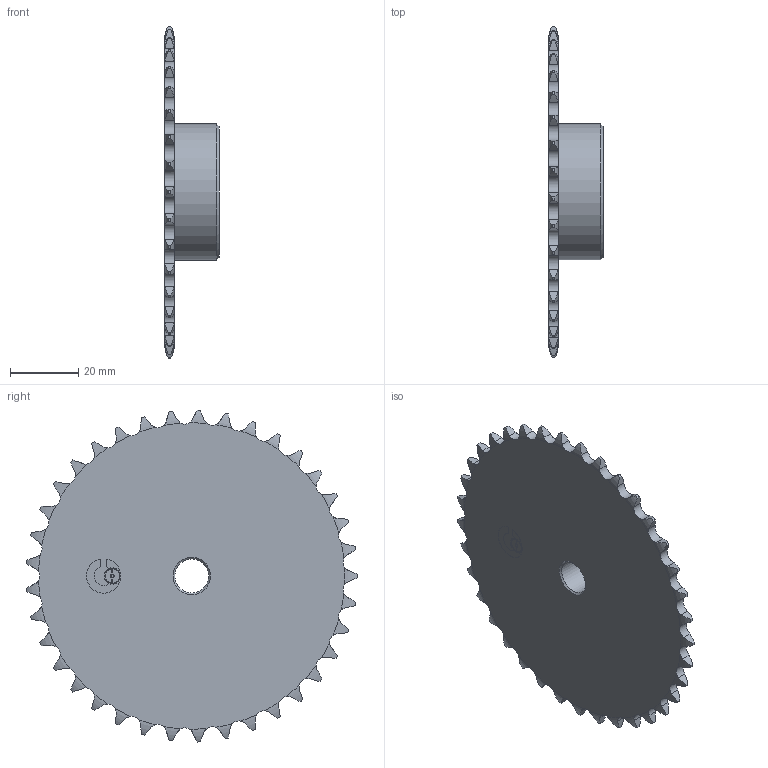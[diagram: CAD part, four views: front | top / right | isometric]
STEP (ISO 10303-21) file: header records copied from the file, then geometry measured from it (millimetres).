
FILE_DESCRIPTION(/* description */ (''),/* implementation_level */ '2;1');
FILE_NAME(/* name */ 'W:\DISEGNI LUCA SALVATAGGIO LOCALE\disegni Fabio Colombo\DISEGNI CATALOGO PIGNONI\PIGNONI ISO606\DIN8187 8x3\DIN8187 8x3 -3D\IPT\10108037.stp',/* time_stamp */ '2022-09-20T12:13:06+02:00',/* author */ ('luca.leone'),/* organization */ (''),/* preprocessor_version */ 'ST-DEVELOPER v19',/* originating_system */ 'Autodesk Inventor 2023',/* authorisation */ '');
FILE_SCHEMA (('AUTOMOTIVE_DESIGN { 1 0 10303 214 3 1 1 }'));
Length unit declared in the file: millimetre
Products named in the file (1): 10108037
Bounding box: 16 x 97.46 x 97.55 mm (x, y, z)
Volume: 33932.3 mm3; surface area: 16406.8 mm2
Topology: 1 solids, 1 shells, 322 faces, 943 edges, 627 vertices
Faces by surface type: cylinder 192, torus 74, plane 53, cone 3
Full cylindrical faces by diameter (mm): 0.834 x1, 10 x1, 40 x1
Entity records: 11627 total; most frequent: CARTESIAN_POINT 3305, ORIENTED_EDGE 1886, DIRECTION 1606, EDGE_CURVE 943, AXIS2_PLACEMENT_3D 636, VERTEX_POINT 627, LINE 334, VECTOR 334
